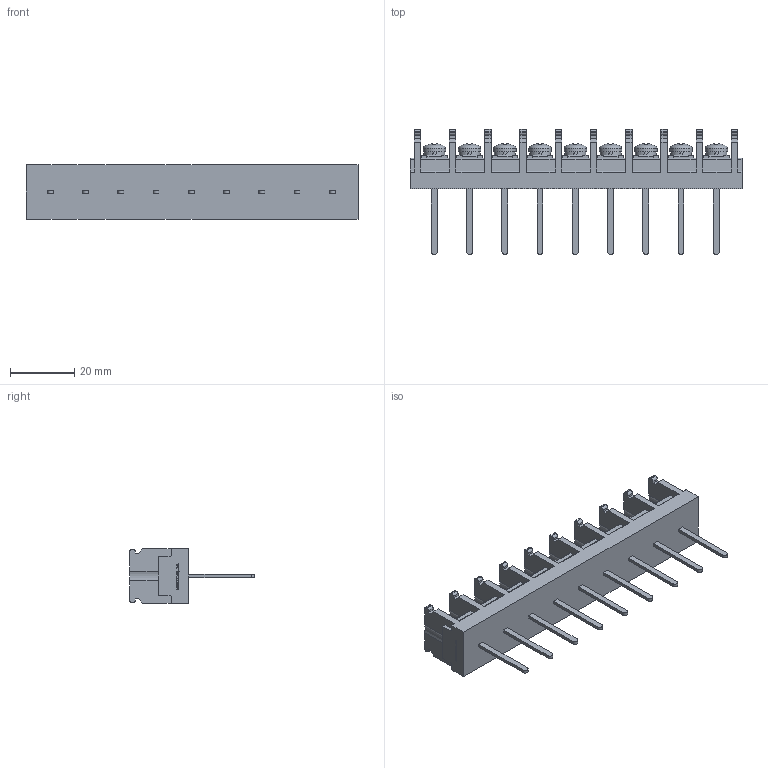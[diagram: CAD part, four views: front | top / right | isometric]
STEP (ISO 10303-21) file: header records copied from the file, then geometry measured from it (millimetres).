
FILE_DESCRIPTION(/* description */ ('Alibre Inc.'),/* implementation_level */ '2;1');
FILE_NAME(/* name */ 'export0',/* time_stamp */ '2015-10-20T07:48:43+09:00',/* author */ (''),/* organization */ (''),/* preprocessor_version */ 'ST-DEVELOPER v14',/* originating_system */ 'Alibre',/* authorisation */ '');
FILE_SCHEMA (('CONFIG_CONTROL_DESIGN'));
Length unit declared in the file: centimetre
Products named in the file (1): ID_1
Bounding box: 103.6 x 39 x 17 mm (x, y, z)
Volume: 19788.2 mm3; surface area: 11809.6 mm2
Topology: 1 solids, 1 shells, 1083 faces, 3015 edges, 2001 vertices
Faces by surface type: plane 758, cylinder 158, bspline 104, cone 36, torus 18, sphere 9
Full cylindrical faces by diameter (mm): 4 x9, 6.5 x9, 7 x9
Entity records: 33627 total; most frequent: CARTESIAN_POINT 7203, ORIENTED_EDGE 5904, DIRECTION 4421, EDGE_CURVE 2952, VECTOR 2073, LINE 2073, VERTEX_POINT 1974, AXIS2_PLACEMENT_3D 1548
